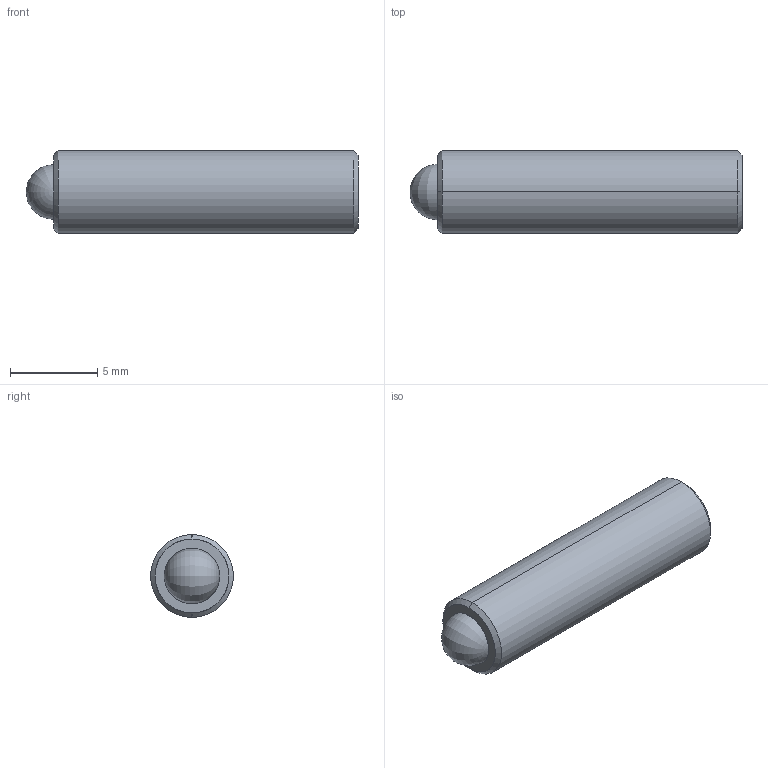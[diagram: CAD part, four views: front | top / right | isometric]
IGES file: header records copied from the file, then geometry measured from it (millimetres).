
Start section: SolidWorks IGES file using analytic representation for surfaces
Global section: file name: C:\Users\workpc\Desktop\KMA Solidworks\TS187-100-750.IGS; native system: SolidWorks 2013; preprocessor: SolidWorks 2013; author: workpc; date: 130211.105809; units: inch
Bounding box: 19.05 x 4.75 x 4.75 mm (x, y, z)
Surface area: 354.6 mm2 (no closed solid volume)
Topology: 0 solids, 0 shells, 20 faces, 204 edges, 200 vertices
Faces by surface type: revolution 10, bspline 10
